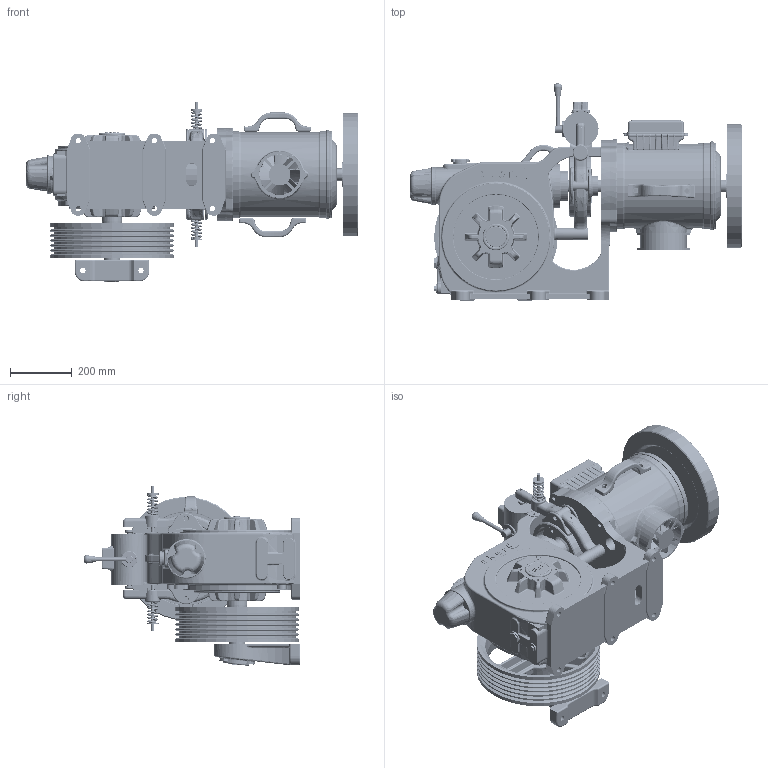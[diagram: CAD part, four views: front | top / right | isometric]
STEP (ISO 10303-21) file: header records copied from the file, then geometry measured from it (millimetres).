
FILE_DESCRIPTION (( 'STEP AP214' ), '1' );
FILE_NAME ('STPC10303021.STEP', '2026-01-21T14:02:26', ( '' ), ( '' ), 'SwSTEP 2.0', 'SolidWorks 2023', '' );
FILE_SCHEMA (( 'AUTOMOTIVE_DESIGN' ));
Length unit declared in the file: millimetre
Products named in the file (1): STPC10303021
Bounding box: 1074.1 x 701.71 x 581.08 mm (x, y, z)
Volume: 73629788.8 mm3; surface area: 4382437 mm2
Topology: 46 solids, 65 shells, 5921 faces, 14116 edges, 8398 vertices
Faces by surface type: cylinder 1952, bspline 1517, plane 1173, torus 686, cone 346, sphere 247
Entity records: 240218 total; most frequent: CARTESIAN_POINT 113414, ORIENTED_EDGE 27950, DIRECTION 24683, EDGE_CURVE 13975, AXIS2_PLACEMENT_3D 10320, VERTEX_POINT 8352, EDGE_LOOP 6377, ADVANCED_FACE 5921
